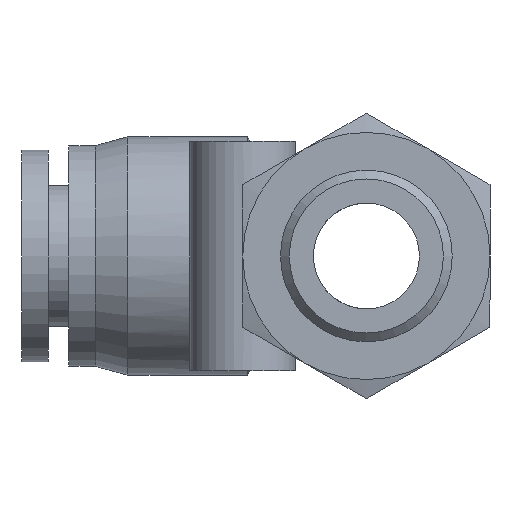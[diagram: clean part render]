
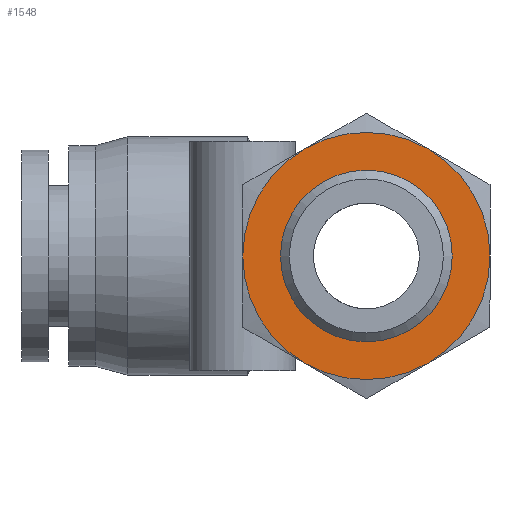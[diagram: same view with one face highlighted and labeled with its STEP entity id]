
A CAD part, left-side view. The second image highlights one B-rep face of the part: STEP entity #1548.
In plain terms, the highlighted planar face has unit normal (-1, 0, 0).
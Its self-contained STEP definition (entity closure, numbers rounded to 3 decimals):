
#806=CARTESIAN_POINT('',(-20.5,4.864,0.0));
#807=VERTEX_POINT('',#806);
#808=CARTESIAN_POINT('',(-20.5,0.0,0.0));
#809=DIRECTION('',(-1.0,0.0,0.0));
#810=DIRECTION('',(0.0,1.0,0.0));
#811=AXIS2_PLACEMENT_3D('',#808,#809,#810);
#812=CIRCLE('',#811,4.864);
#813=EDGE_CURVE('',#807,#807,#812,.T.);
#1288=CARTESIAN_POINT('',(-20.5,3.5,-6.062));
#1289=VERTEX_POINT('',#1288);
#1290=CARTESIAN_POINT('',(-20.5,0.0,0.0));
#1291=DIRECTION('',(-1.0,0.0,0.0));
#1292=DIRECTION('',(0.0,1.0,0.0));
#1293=AXIS2_PLACEMENT_3D('',#1290,#1291,#1292);
#1294=CIRCLE('',#1293,7.);
#1295=EDGE_CURVE('',#1289,#1289,#1294,.T.);
#1537=CARTESIAN_POINT('',(-20.5,5.932,0.0));
#1538=DIRECTION('',(-1.0,0.0,0.0));
#1539=DIRECTION('',(0.0,0.0,1.0));
#1540=AXIS2_PLACEMENT_3D('',#1537,#1538,#1539);
#1541=PLANE('',#1540);
#1542=ORIENTED_EDGE('',*,*,#1295,.T.);
#1543=EDGE_LOOP('',(#1542));
#1544=FACE_OUTER_BOUND('',#1543,.T.);
#1545=ORIENTED_EDGE('',*,*,#813,.F.);
#1546=EDGE_LOOP('',(#1545));
#1547=FACE_BOUND('',#1546,.T.);
#1548=ADVANCED_FACE('',(#1544,#1547),#1541,.T.);
